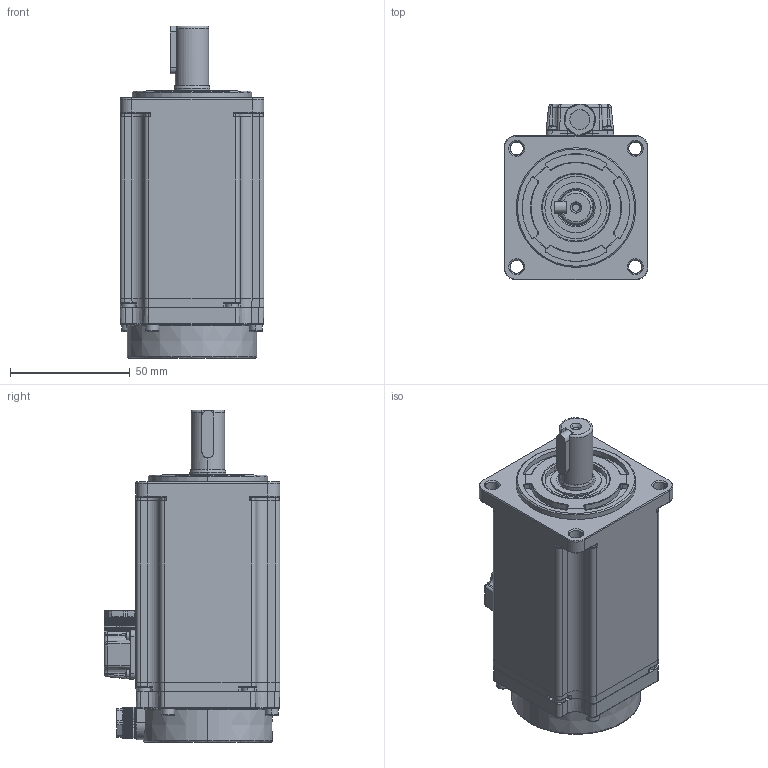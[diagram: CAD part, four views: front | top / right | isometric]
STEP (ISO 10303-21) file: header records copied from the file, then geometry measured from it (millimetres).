
FILE_DESCRIPTION (( 'STEP AP203' ), '1' );
FILE_NAME ('G3系列60ST-600W标准电机三维图.STEP', '2023-09-27T05:28:03', ( '微软用户' ), ( '微软中国' ), 'SwSTEP 2.0', 'SolidWorks 2016', '' );
FILE_SCHEMA (( 'CONFIG_CONTROL_DESIGN' ));
Products named in the file (1): G3系列60ST-600W标准电机三维图
Bounding box: 60.2 x 73.5 x 138.8 mm (x, y, z)
Volume: 221334.8 mm3; surface area: 192266.1 mm2
Topology: 83 solids, 83 shells, 6693 faces, 17105 edges, 10661 vertices
Faces by surface type: plane 4519, cylinder 1227, cone 529, bspline 211, torus 157, sphere 50
Entity records: 204362 total; most frequent: CARTESIAN_POINT 44125, ORIENTED_EDGE 33974, DIRECTION 32481, EDGE_CURVE 16987, LINE 11913, VECTOR 11913, VERTEX_POINT 10593, AXIS2_PLACEMENT_3D 10284
